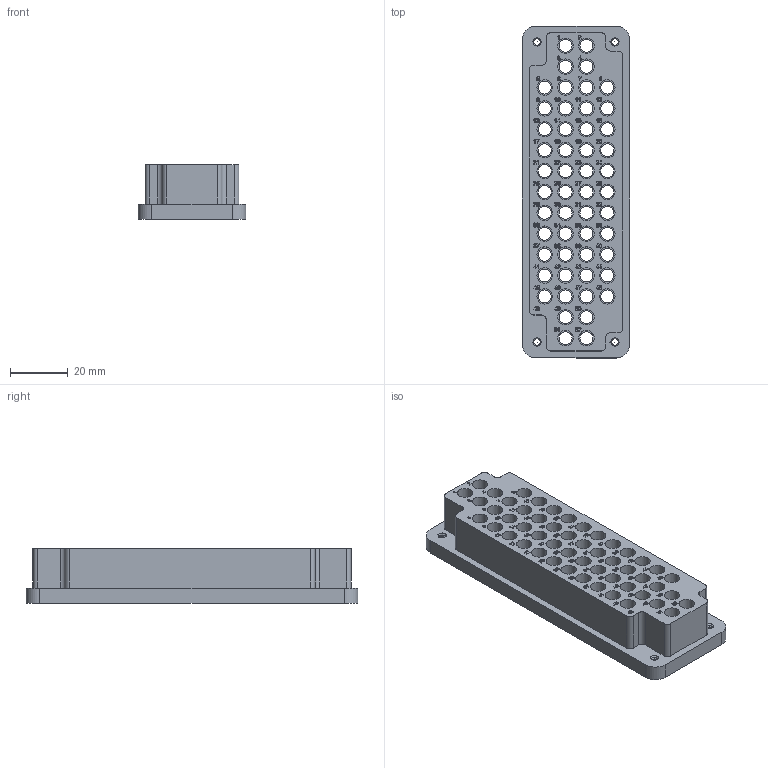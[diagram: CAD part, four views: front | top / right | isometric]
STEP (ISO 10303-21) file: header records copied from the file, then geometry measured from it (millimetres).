
FILE_DESCRIPTION((''),'2;1');
FILE_NAME('C:\Users\davecooper\Desktop\30100052-01-CU.stp','2011-10-05T14:11:55',('davecooper'),(''),'Autodesk Inventor 2011','Autodesk Inventor 2011','');
FILE_SCHEMA(('CONFIG_CONTROL_DESIGN'));
Length unit declared in the file: inch
Products named in the file (1): 30100052-01-CU
Bounding box: 37.27 x 115.06 x 19.1 mm (x, y, z)
Surface area: 29311.9 mm2 (no closed solid volume)
Topology: 0 solids, 9 shells, 3518 faces, 9214 edges, 6144 vertices
Faces by surface type: bspline 1705, plane 1633, cylinder 180
Full cylindrical faces by diameter (mm): 0.005 x4, 2.845 x4, 4.496 x52, 5.334 x52, 5.461 x52
Entity records: 121843 total; most frequent: CARTESIAN_POINT 43377, ORIENTED_EDGE 18092, DIRECTION 9636, EDGE_CURVE 9046, VERTEX_POINT 6140, VECTOR 5272, LINE 5272, EDGE_LOOP 4224
